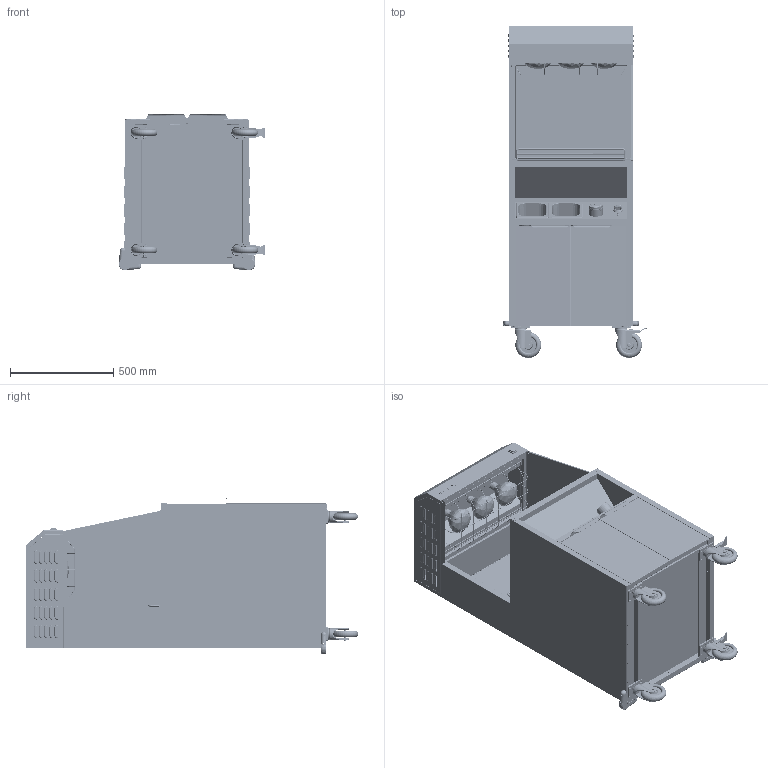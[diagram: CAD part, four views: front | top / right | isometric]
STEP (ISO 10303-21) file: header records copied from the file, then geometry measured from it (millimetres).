
FILE_DESCRIPTION (( 'STEP AP214' ), '1' );
FILE_NAME ('pres_CPDSDC600.STEP', '2024-12-12T15:08:36', ( '' ), ( '' ), 'SwSTEP 2.0', 'SolidWorks 2025', '' );
FILE_SCHEMA (( 'AUTOMOTIVE_DESIGN' ));
Length unit declared in the file: millimetre
Products named in the file (1): pres_CPDSDC600
Bounding box: 711.49 x 1607.3 x 760.51 mm (x, y, z)
Volume: 13178856.3 mm3; surface area: 18188927.6 mm2
Topology: 99 solids, 99 shells, 8409 faces, 21337 edges, 13067 vertices
Faces by surface type: plane 3966, cylinder 2997, bspline 544, torus 493, cone 377, sphere 32
Entity records: 373661 total; most frequent: CARTESIAN_POINT 84813, ORIENTED_EDGE 42606, DIRECTION 42331, EDGE_CURVE 21303, AXIS2_PLACEMENT_3D 15035, VERTEX_POINT 13065, LINE 12261, VECTOR 12261
